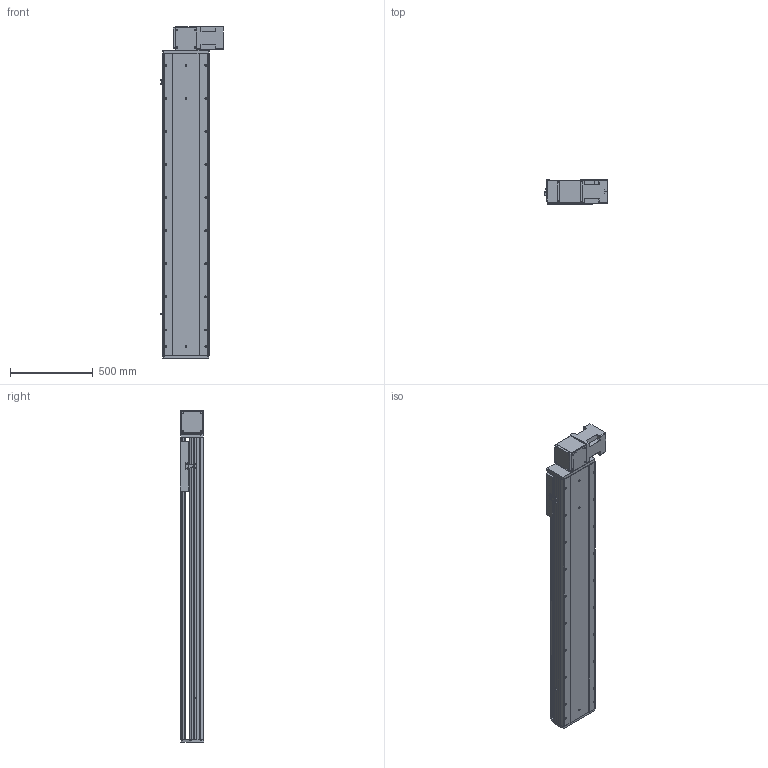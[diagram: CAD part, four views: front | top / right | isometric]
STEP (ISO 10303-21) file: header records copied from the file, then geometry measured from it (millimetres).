
FILE_DESCRIPTION (( 'STEP AP214' ), '1' );
FILE_NAME ('RTB28S-XX-1400-BL-M100-XX-C4.STEP', '2025-12-22T02:22:54', ( '' ), ( '' ), 'SwSTEP 2.0', 'SolidWorks 2018', '' );
FILE_SCHEMA (( 'AUTOMOTIVE_DESIGN' ));
Length unit declared in the file: millimetre
Products named in the file (4): RTB28S-GY-004^RTB28S-XX-XX-BL-M100-XX-C4; RTB28S-GY-008^RTB28S-XX-XX-BL-M100-XX-C4; RTB28S-GY-011^RTB28S-XX-XX-BL-M100-XX-C4; RTB28S-XX-1400-BL-M100-XX-C4
Assembly tree (3 placements, depth 2):
  RTB28S-XX-1400-BL-M100-XX-C4
    RTB28S-GY-011^RTB28S-XX-XX-BL-M100-XX-C4
    RTB28S-GY-004^RTB28S-XX-XX-BL-M100-XX-C4
    RTB28S-GY-008^RTB28S-XX-XX-BL-M100-XX-C4
Bounding box: 380.7 x 145 x 2007 mm (x, y, z)
Volume: 35910758.9 mm3; surface area: 3430444.8 mm2
Topology: 3 solids, 4 shells, 808 faces, 2148 edges, 1368 vertices
Faces by surface type: cylinder 375, plane 349, cone 80, torus 4
Entity records: 30485 total; most frequent: CARTESIAN_POINT 5302, DIRECTION 4554, ORIENTED_EDGE 4232, EDGE_CURVE 2116, AXIS2_PLACEMENT_3D 1652, VERTEX_POINT 1368, LINE 1250, VECTOR 1250
